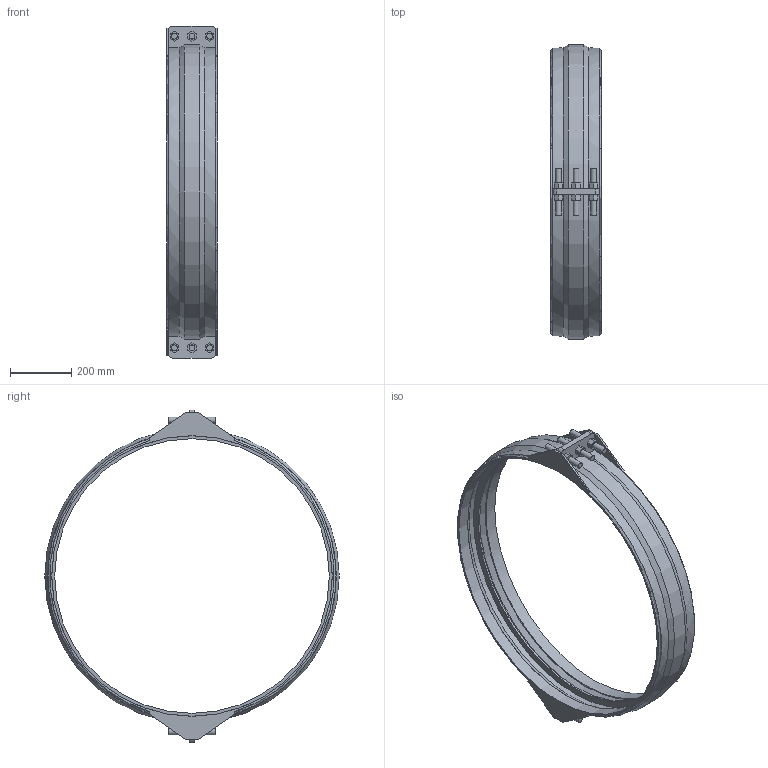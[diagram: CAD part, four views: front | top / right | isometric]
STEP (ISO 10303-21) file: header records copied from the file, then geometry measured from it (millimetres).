
FILE_DESCRIPTION(/* description */ ('VIC SS RESTRAINED COUPLING STYLE 234S (FLEX) (BRS)','CAx-IF Rec.Pracs.---Representation and Presentation of Product Manufacturing Information (PMI)---4.0---2014-10-13'),/* implementation_level */ '2;1');
FILE_NAME(/* name */ 'C:\Users\kkamble\AppData\Roaming\Autodesk\ApplicationPlugins\Back Up\Victaulic_VBSP_Coupling Flexible Restrained_Style 234S (BRS)\Victaulic_VBSP_Coupling Flexible Restrained_Style 234S (BRS)_200psi_36 (900).stp',/* time_stamp */ '2020-09-22T18:41:46+05:00',/* author */ ('Vjadhav'),/* organization */ ('Victaulic'),/* preprocessor_version */ 'ST-DEVELOPER v17.2',/* originating_system */ 'Autodesk Inventor 2019',/* authorisation */ '');
FILE_SCHEMA (('AP242_MANAGED_MODEL_BASED_3D_ENGINEERING_MIM_LF { 1 0 10303 442 1 1 4 }'));
Length unit declared in the file: inch
Products named in the file (1): Style_234S_Type_2_200psi-36.0
Bounding box: 165.1 x 959.35 x 1082.04 mm (x, y, z)
Volume: 6750563 mm3; surface area: 1375248.6 mm2
Topology: 1 solids, 1 shells, 187 faces, 473 edges, 316 vertices
Faces by surface type: plane 132, cylinder 43, torus 6, cone 6
Full cylindrical faces by diameter (mm): 19.05 x12, 895.35 x1, 914.4 x2, 940.303 x2
Entity records: 6074 total; most frequent: CARTESIAN_POINT 1146, DIRECTION 977, ORIENTED_EDGE 946, EDGE_CURVE 473, LINE 339, VECTOR 339, AXIS2_PLACEMENT_3D 319, VERTEX_POINT 316
